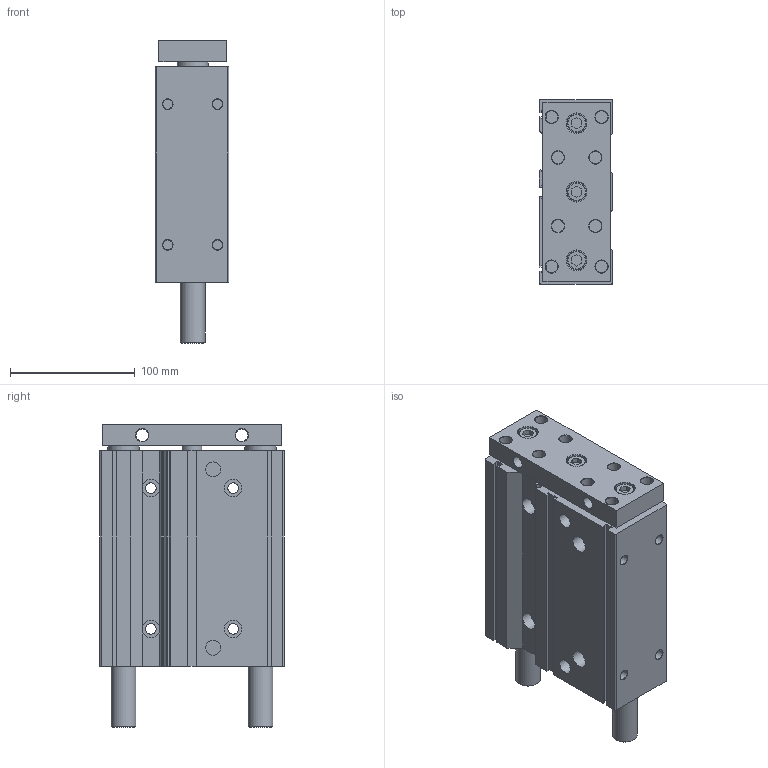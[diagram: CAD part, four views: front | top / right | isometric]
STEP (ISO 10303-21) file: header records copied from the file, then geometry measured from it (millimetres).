
FILE_DESCRIPTION((''),'2;1');
FILE_NAME('I:\3D電子目錄\氣缸\TB(U)\TB(U)50\TB50(U)\TB(U)50x125.stp','2007-08-06T09:22:17',('Administrator'),(''),'Autodesk Inventor 2008','Autodesk Inventor 2008','');
FILE_SCHEMA(('AUTOMOTIVE_DESIGN { 1 0 10303 214 1 1 1 1 }'));
Length unit declared in the file: millimetre
Products named in the file (1): TB(U)50X125
Bounding box: 59 x 148 x 243 mm (x, y, z)
Volume: 1491603.7 mm3; surface area: 149285.6 mm2
Topology: 1 solids, 1 shells, 206 faces, 460 edges, 292 vertices
Faces by surface type: plane 106, cylinder 52, cone 37, bspline 8, torus 3
Full cylindrical faces by diameter (mm): 8 x4, 8.5 x4, 10 x18, 12 x2, 14 x4, 15 x3, 16 x4, 20 x2, 25 x2, 32 x2, 52 x1
Entity records: 5360 total; most frequent: CARTESIAN_POINT 945, DIRECTION 920, ORIENTED_EDGE 736, EDGE_CURVE 368, EDGE_LOOP 364, AXIS2_PLACEMENT_3D 353, VERTEX_POINT 290, VECTOR 214
